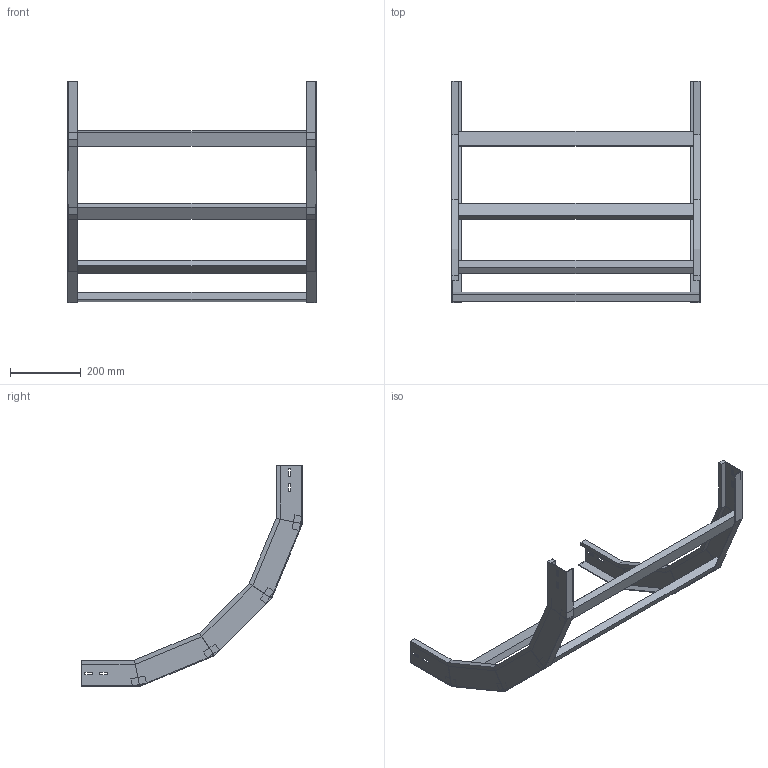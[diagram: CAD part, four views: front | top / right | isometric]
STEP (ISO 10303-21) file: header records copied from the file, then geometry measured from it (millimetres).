
FILE_DESCRIPTION (( 'STEP AP214' ), '1' );
FILE_NAME ('A2X30B5C700XX.step', '2025-03-20T10:24:56', ( '' ), ( '' ), 'SwSTEP 2.0', 'SolidWorks 2023', '' );
FILE_SCHEMA (( 'AUTOMOTIVE_DESIGN' ));
Length unit declared in the file: millimetre
Products named in the file (3): LONGH.SALITA_90°_H75_R500; TRAVERSINO_700; A2X30B5C700XX
Assembly tree (6 placements, depth 2):
  A2X30B5C700XX
    LONGH.SALITA_90°_H75_R500  x2
    TRAVERSINO_700  x4
Bounding box: 700 x 624.12 x 624.12 mm (x, y, z)
Volume: 2987170.9 mm3; surface area: 796323.8 mm2
Topology: 6 solids, 6 shells, 140 faces, 320 edges, 192 vertices
Faces by surface type: plane 140
Entity records: 1872 total; most frequent: CARTESIAN_POINT 309, ORIENTED_EDGE 296, DIRECTION 294, VECTOR 148, EDGE_CURVE 148, LINE 148, VERTEX_POINT 88, AXIS2_PLACEMENT_3D 73
